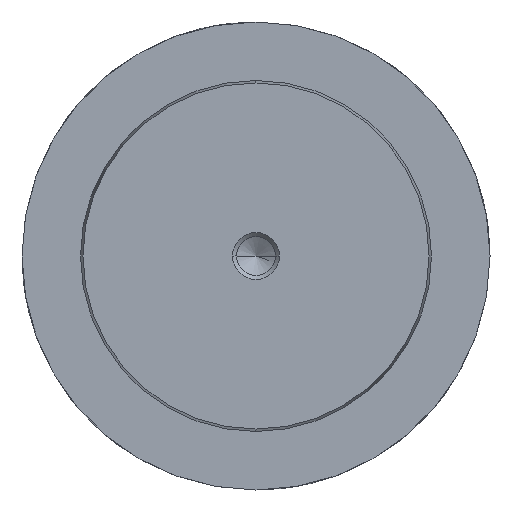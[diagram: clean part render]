
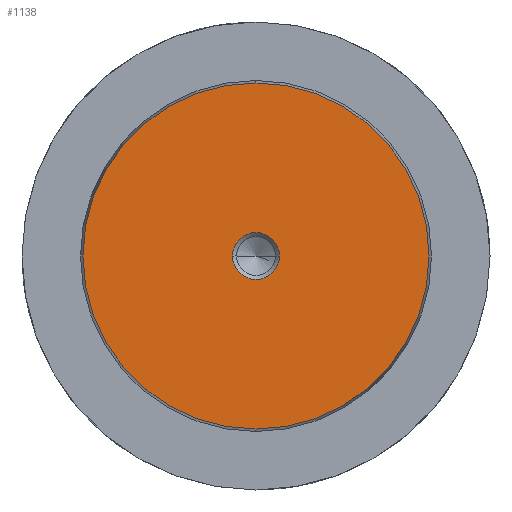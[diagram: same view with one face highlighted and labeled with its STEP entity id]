
A CAD part, left-side view. The second image highlights one B-rep face of the part: STEP entity #1138.
In plain terms, the highlighted planar face has unit normal (-1, 0, 0).
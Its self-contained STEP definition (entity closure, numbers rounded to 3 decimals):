
#1052=CARTESIAN_POINT('Vertex',(0.,0.,-29.578)) ;
#1055=CARTESIAN_POINT('Axis2P3D Location',(0.,0.,0.)) ;
#1059=CARTESIAN_POINT('Vertex',(0.,29.578,0.)) ;
#1062=CARTESIAN_POINT('Axis2P3D Location',(0.,0.,0.)) ;
#1066=CARTESIAN_POINT('Vertex',(0.,0.,29.578)) ;
#1088=CARTESIAN_POINT('Axis2P3D Location',(0.,0.,0.)) ;
#1092=CARTESIAN_POINT('Vertex',(0.,-29.578,0.)) ;
#1095=CARTESIAN_POINT('Axis2P3D Location',(0.,0.,0.)) ;
#1109=CARTESIAN_POINT('Axis2P3D Location',(0.,0.,0.)) ;
#1120=CARTESIAN_POINT('Axis2P3D Location',(0.,0.,0.)) ;
#1124=CARTESIAN_POINT('Vertex',(0.,4.,0.)) ;
#1126=CARTESIAN_POINT('Vertex',(0.,-4.,0.)) ;
#1129=CARTESIAN_POINT('Axis2P3D Location',(0.,0.,0.)) ;
#1056=DIRECTION('Axis2P3D Direction',(1.,-0.,0.)) ;
#1063=DIRECTION('Axis2P3D Direction',(1.,-0.,0.)) ;
#1089=DIRECTION('Axis2P3D Direction',(1.,0.,-0.)) ;
#1096=DIRECTION('Axis2P3D Direction',(1.,0.,-0.)) ;
#1110=DIRECTION('Axis2P3D Direction',(1.,0.,-0.)) ;
#1111=DIRECTION('Axis2P3D XDirection',(-0.,0.,-1.)) ;
#1121=DIRECTION('Axis2P3D Direction',(1.,0.,-0.)) ;
#1130=DIRECTION('Axis2P3D Direction',(1.,0.,-0.)) ;
#1057=AXIS2_PLACEMENT_3D('Circle Axis2P3D',#1055,#1056,$) ;
#1064=AXIS2_PLACEMENT_3D('Circle Axis2P3D',#1062,#1063,$) ;
#1090=AXIS2_PLACEMENT_3D('Circle Axis2P3D',#1088,#1089,$) ;
#1097=AXIS2_PLACEMENT_3D('Circle Axis2P3D',#1095,#1096,$) ;
#1112=AXIS2_PLACEMENT_3D('Plane Axis2P3D',#1109,#1110,#1111) ;
#1122=AXIS2_PLACEMENT_3D('Circle Axis2P3D',#1120,#1121,$) ;
#1131=AXIS2_PLACEMENT_3D('Circle Axis2P3D',#1129,#1130,$) ;
#1115=ORIENTED_EDGE('',*,*,#1061,.F.) ;
#1116=ORIENTED_EDGE('',*,*,#1099,.F.) ;
#1117=ORIENTED_EDGE('',*,*,#1094,.F.) ;
#1118=ORIENTED_EDGE('',*,*,#1068,.F.) ;
#1135=ORIENTED_EDGE('',*,*,#1128,.T.) ;
#1136=ORIENTED_EDGE('',*,*,#1133,.T.) ;
#1137=FACE_BOUND('',#1134,.T.) ;
#1138=ADVANCED_FACE('719-60x224',(#1119,#1137),#1113,.F.) ;
#1058=CIRCLE('generated circle',#1057,29.578) ;
#1065=CIRCLE('generated circle',#1064,29.578) ;
#1091=CIRCLE('generated circle',#1090,29.578) ;
#1098=CIRCLE('generated circle',#1097,29.578) ;
#1123=CIRCLE('generated circle',#1122,4.) ;
#1132=CIRCLE('generated circle',#1131,4.) ;
#1061=EDGE_CURVE('',#1053,#1060,#1058,.T.) ;
#1068=EDGE_CURVE('',#1060,#1067,#1065,.T.) ;
#1094=EDGE_CURVE('',#1067,#1093,#1091,.T.) ;
#1099=EDGE_CURVE('',#1093,#1053,#1098,.T.) ;
#1128=EDGE_CURVE('',#1125,#1127,#1123,.T.) ;
#1133=EDGE_CURVE('',#1127,#1125,#1132,.T.) ;
#1114=EDGE_LOOP('',(#1115,#1116,#1117,#1118)) ;
#1134=EDGE_LOOP('',(#1135,#1136)) ;
#1119=FACE_OUTER_BOUND('',#1114,.T.) ;
#1113=PLANE('Plane',#1112) ;
#1053=VERTEX_POINT('',#1052) ;
#1060=VERTEX_POINT('',#1059) ;
#1067=VERTEX_POINT('',#1066) ;
#1093=VERTEX_POINT('',#1092) ;
#1125=VERTEX_POINT('',#1124) ;
#1127=VERTEX_POINT('',#1126) ;
